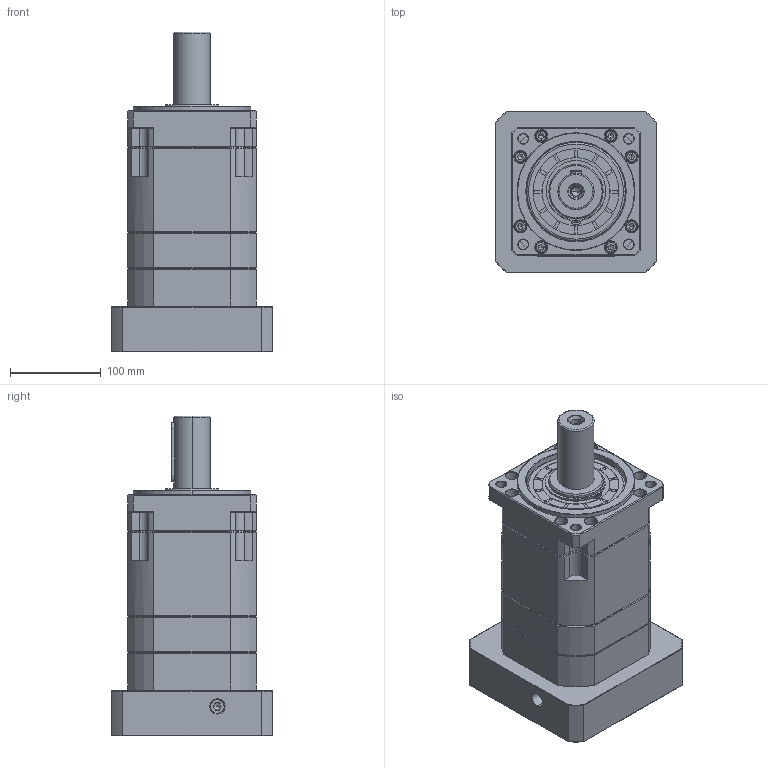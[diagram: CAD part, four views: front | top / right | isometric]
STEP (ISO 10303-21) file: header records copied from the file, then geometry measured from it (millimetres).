
FILE_DESCRIPTION (( 'STEP AP214' ), '1' );
FILE_NAME ('ZB142A-D40-L3-35-114.3-200-M12.step', '2023-03-17T10:47:58', ( '' ), ( '' ), 'SwSTEP 2.0', 'SolidWorks 2016', '' );
FILE_SCHEMA (( 'AUTOMOTIVE_DESIGN' ));
Length unit declared in the file: millimetre
Products named in the file (1): ZB142A-D40-L3-35-114.3-200-M12
Bounding box: 178 x 178 x 353.2 mm (x, y, z)
Volume: 5062493.7 mm3; surface area: 392049.5 mm2
Topology: 6 solids, 6 shells, 2220 faces, 5815 edges, 3702 vertices
Faces by surface type: plane 1025, cylinder 461, cone 399, bspline 313, torus 22
Entity records: 121375 total; most frequent: CARTESIAN_POINT 44771, ORIENTED_EDGE 11570, DIRECTION 9754, EDGE_CURVE 5785, VERTEX_POINT 3702, VECTOR 3570, LINE 3570, AXIS2_PLACEMENT_3D 3092
